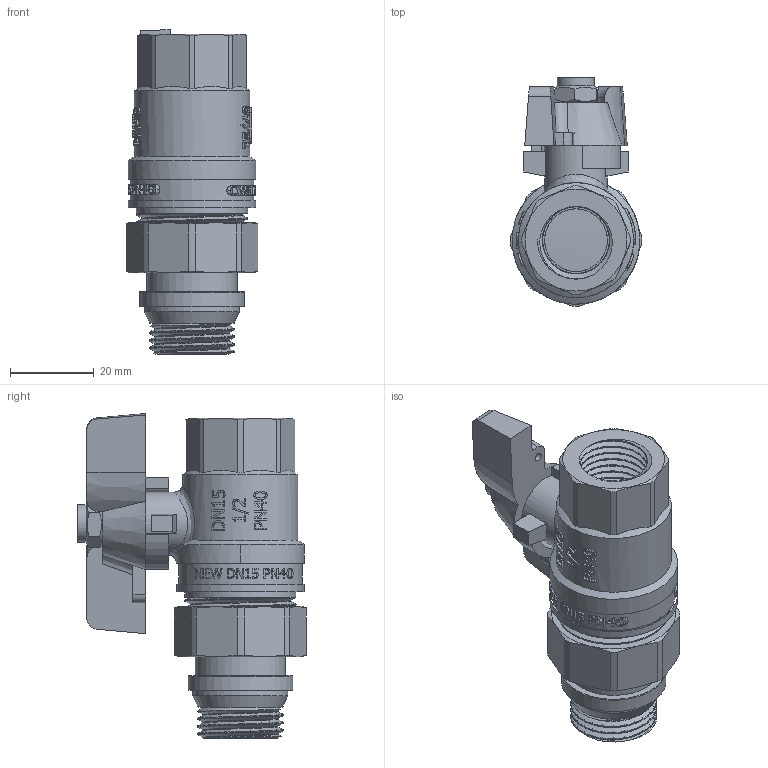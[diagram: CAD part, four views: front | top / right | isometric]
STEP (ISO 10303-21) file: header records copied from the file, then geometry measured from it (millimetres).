
FILE_DESCRIPTION(/* description */ (''),/* implementation_level */ '2;1');
FILE_NAME(/* name */ 'C:\Users\Doom\Desktop\Фадотех\KA1 08.11.2021\KA1 08.11.2021.stp',/* time_stamp */ '2021-11-30T00:38:50+02:00',/* author */ ('Doom'),/* organization */ (''),/* preprocessor_version */ 'ST-DEVELOPER v18',/* originating_system */ 'Autodesk Inventor 2020',/* authorisation */ '');
FILE_SCHEMA (('AUTOMOTIVE_DESIGN { 1 0 10303 214 3 1 1 }'));
Length unit declared in the file: millimetre
Products named in the file (11): KA1 08.11.2021; KA1 08.11.2021_1; KA1 08.11.2021_2; 22208286; KA1 08.11.2021_3; KA1 08.11.2021_4; KA1 08.11.2021_5; 27032111; KA1 08.11.2021_6; 20642011; DIN 985 - M6
Assembly tree (10 placements, depth 2):
  KA1 08.11.2021
    KA1 08.11.2021_1
    KA1 08.11.2021_2
    22208286
    KA1 08.11.2021_3
    KA1 08.11.2021_4
    KA1 08.11.2021_5
    27032111
    KA1 08.11.2021_6
    20642011
    DIN 985 - M6
Bounding box: 31.5 x 54.6 x 77.58 mm (x, y, z)
Volume: 36337.4 mm3; surface area: 34798.5 mm2
Topology: 12 solids, 12 shells, 1425 faces, 4009 edges, 2679 vertices
Faces by surface type: plane 641, bspline 444, cylinder 290, cone 42, torus 7, sphere 1
Full cylindrical faces by diameter (mm): 2 x2, 4.917 x1, 8 x1, 8.1 x1, 8.9 x1, 9.164 x4, 10 x1, 10.647 x1, 11 x1, 13 x1, 15 x4, 15.3 x2, 15.941 x7, 16.568 x1, 17 x1, 17.7 x1, 18 x1, 18.2 x1, 18.631 x1, 19 x1, 20.5 x1, 20.7 x1, 21 x2, 21.5 x1, 21.681 x6, 21.9 x1, 22.7 x1, 23.017 x6, 23.6 x1, 23.878 x2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
Entity records: 88671 total; most frequent: CARTESIAN_POINT 55865, ORIENTED_EDGE 7990, DIRECTION 4832, EDGE_CURVE 3995, VERTEX_POINT 2673, B_SPLINE_CURVE_WITH_KNOTS 1803, AXIS2_PLACEMENT_3D 1749, EDGE_LOOP 1536
